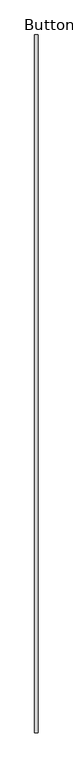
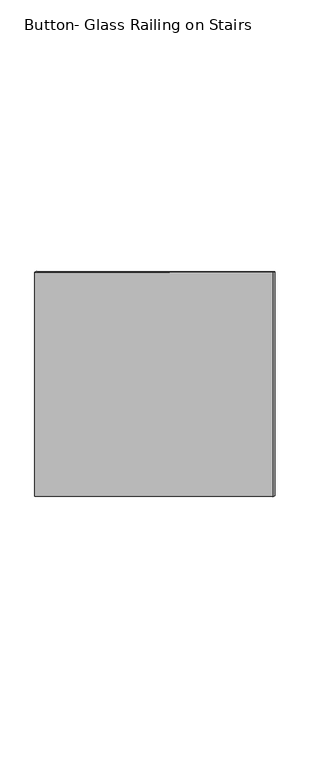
"""IFC4 building model written with IfcOpenShell, lengths in millimetres: railing geometry, Button- Glass Railing on Stairs."""

import ifcopenshell
import ifcopenshell.guid

model = None  # the IFC model being written
_history = None  # IfcOwnerHistory: only IFC2X3 demands one
_inside = {}  # id of a spatial element -> (the spatial element, [elements in it])
_under = {}  # id of a project, library or spatial element -> (it, [spatial elements below it])
_declared = {}  # id of a project -> (the project, [libraries it declares])
_typed = {}  # id of a type object -> (the type object, [elements of that type])
_made_of = {}  # id of a material, layer set ... -> (it, [elements and type objects made of it])


def new_model(schema):
    """Start an empty IFC model of exactly this schema.

    Asked for "IFC4X3", IfcOpenShell would pick the latest addendum, in which some entities
    have other attributes; the version numbers below select the first issue.
    IFC2X3 requires an IfcOwnerHistory on every rooted entity: one is made here for all.
    """
    global model, _history
    if schema == "IFC4X3":
        model = ifcopenshell.file(schema_version=(4, 3, 0, 0))
    else:
        model = ifcopenshell.file(schema=schema)
    _inside.clear()
    _under.clear()
    _declared.clear()
    _typed.clear()
    _made_of.clear()
    _history = None
    if model.schema == "IFC2X3":
        org = make("IfcOrganization", Name="unknown")
        user = make(
            "IfcPersonAndOrganization",
            ThePerson=make("IfcPerson", FamilyName="unknown"),
            TheOrganization=org,
        )
        app = make(
            "IfcApplication",
            ApplicationDeveloper=org,
            Version="unknown",
            ApplicationFullName="unknown",
            ApplicationIdentifier="unknown",
        )
        _history = make(
            "IfcOwnerHistory",
            OwningUser=user,
            OwningApplication=app,
            ChangeAction="ADDED",
            CreationDate=0,
        )
    return model


def make(cls, **values):
    """One entity of the class cls with the attributes given. An attribute that is None is left unset."""
    return model.create_entity(
        cls, **{name: value for name, value in values.items() if value is not None}
    )


def rooted(cls, **values):
    """An entity with a GlobalId (a new one), such as an element, a storey or a relation."""
    return make(cls, GlobalId=ifcopenshell.guid.new(), OwnerHistory=_history, **values)


def si_unit(unit_type, name, prefix=None):
    """IfcSIUnit, for example si_unit("LENGTHUNIT", "METRE", prefix="MILLI")."""
    return make("IfcSIUnit", UnitType=unit_type, Prefix=prefix, Name=name)


def assignment(units):
    """IfcUnitAssignment: the units of a project."""
    return None if units is None else make("IfcUnitAssignment", Units=units)


def point(xyz):
    """IfcCartesianPoint."""
    return None if xyz is None else make("IfcCartesianPoint", Coordinates=xyz)


def direction(xyz):
    """IfcDirection."""
    return None if xyz is None else make("IfcDirection", DirectionRatios=xyz)


def frame(location, z_axis=None, x_axis=None):
    """IfcAxis2Placement3D, a coordinate frame: its origin and axes. An axis left out is left unset."""
    return make(
        "IfcAxis2Placement3D",
        Location=point(location),
        Axis=direction(z_axis),
        RefDirection=direction(x_axis),
    )


def origin():
    """The frame at (0, 0, 0) with its axes left unset."""
    return frame((0.0, 0.0, 0.0))


def place(relative_to, where):
    """IfcLocalPlacement: puts the frame where relative to a parent placement (None: the world)."""
    return make(
        "IfcLocalPlacement", PlacementRelTo=relative_to, RelativePlacement=where
    )


def context(
    kind, dimensions, precision=None, world=None, true_north=None, identifier=None
):
    """IfcGeometricRepresentationContext, for example the 3D "Model" context."""
    return make(
        "IfcGeometricRepresentationContext",
        ContextIdentifier=identifier,
        ContextType=kind,
        CoordinateSpaceDimension=dimensions,
        Precision=precision,
        WorldCoordinateSystem=world,
        TrueNorth=true_north,
    )


def project(units=None, contexts=None):
    """IfcProject with its units and contexts."""
    return rooted(
        "IfcProject",
        Name="project",
        RepresentationContexts=contexts,
        UnitsInContext=assignment(units),
    )


def spatial(cls, under=None, at=None, **own):
    """A site, building, storey or space (cls), placed at a placement, below another one or the project."""
    s = rooted(cls, ObjectPlacement=at, **own)
    if under is not None:
        _under.setdefault(under.id(), (under, []))[1].append(s)
    return s


def polyline(points):
    """IfcPolyline through the points."""
    return make("IfcPolyline", Points=[point(p) for p in points])


def outline(outer, holes=None, kind="AREA"):
    """IfcArbitraryClosedProfileDef: a profile drawn as a closed curve; with holes, ...WithVoids."""
    if holes is None:
        return make("IfcArbitraryClosedProfileDef", ProfileType=kind, OuterCurve=outer)
    return make(
        "IfcArbitraryProfileDefWithVoids",
        ProfileType=kind,
        OuterCurve=outer,
        InnerCurves=holes,
    )


def extrude(swept, where, along, depth):
    """IfcExtrudedAreaSolid: the profile swept, set in the frame where, extruded along a direction by depth."""
    return make(
        "IfcExtrudedAreaSolid",
        SweptArea=swept,
        Position=where,
        ExtrudedDirection=direction(along),
        Depth=depth,
    )


def shape(context_of_items, identifier, shape_type, items):
    """IfcShapeRepresentation: the items that make up one representation, for example the "Body"."""
    return make(
        "IfcShapeRepresentation",
        ContextOfItems=context_of_items,
        RepresentationIdentifier=identifier,
        RepresentationType=shape_type,
        Items=items,
    )


def source(mapping_origin, context_of_items, identifier, shape_type, items):
    """IfcRepresentationMap: a shape defined once, which mapped items show again and again."""
    return make(
        "IfcRepresentationMap",
        MappingOrigin=mapping_origin,
        MappedRepresentation=shape(context_of_items, identifier, shape_type, items),
    )


def transform(
    local_origin,
    x_axis=None,
    y_axis=None,
    z_axis=None,
    scale=None,
    scale2=None,
    scale3=None,
    uniform=True,
):
    """IfcCartesianTransformationOperator3D, or its non-uniform kind. x_axis, y_axis, z_axis: its Axis1, 2, 3."""
    if uniform:
        return make(
            "IfcCartesianTransformationOperator3D",
            Axis1=direction(x_axis),
            Axis2=direction(y_axis),
            LocalOrigin=point(local_origin),
            Scale=scale,
            Axis3=direction(z_axis),
        )
    return make(
        "IfcCartesianTransformationOperator3DnonUniform",
        Axis1=direction(x_axis),
        Axis2=direction(y_axis),
        LocalOrigin=point(local_origin),
        Scale=scale,
        Axis3=direction(z_axis),
        Scale2=scale2,
        Scale3=scale3,
    )


def mapped(mapping_source, mapping_target):
    """IfcMappedItem: shows the shape of a source again, moved by a transform."""
    return make(
        "IfcMappedItem", MappingSource=mapping_source, MappingTarget=mapping_target
    )


def made_of(thing, what):
    """Note that an element or type object is made of a material, layer set ...; save() writes the relation."""
    if what is not None:
        _made_of.setdefault(what.id(), (what, []))[1].append(thing)
    return thing


def element(
    cls,
    number,
    at=None,
    inside=None,
    cuts=None,
    type_object=None,
    material=None,
    context=None,
    identifier="Body",
    shape_type=None,
    held_by="IfcProductDefinitionShape",
    body=None,
    shapes=None,
    **own,
):
    """One element of the class cls, such as IfcWall. Its Tag is "e" and its number.

    at: its placement. inside: the storey or other place that contains it. cuts: it is an
    opening in that element (IfcRelVoidsElement). A single representation is given by context,
    identifier, shape_type and body (its items); several are given by shapes. held_by: the class
    of the entity that holds the representations. save() writes the other relations.
    """
    e = rooted(cls, Tag="e%d" % number, ObjectPlacement=at, **own)
    if body is not None:
        shapes = [shape(context, identifier, shape_type, body)]
    if shapes is not None:
        e.Representation = make(held_by, Representations=shapes)
    if inside is not None:
        _inside.setdefault(inside.id(), (inside, []))[1].append(e)
    if cuts is not None:
        rooted(
            "IfcRelVoidsElement", RelatingBuildingElement=cuts, RelatedOpeningElement=e
        )
    if type_object is not None:
        _typed.setdefault(type_object.id(), (type_object, []))[1].append(e)
    return made_of(e, material)


def aggregate(whole, parts):
    """IfcRelAggregates: a whole, such as a stair, and the parts it consists of."""
    return rooted("IfcRelAggregates", RelatingObject=whole, RelatedObjects=parts)


def save(model, path):
    """Write the relations noted so far, then the file.

    IfcRelAggregates (storeys below a building ...), IfcRelContainedInSpatialStructure (elements
    in a storey), IfcRelDefinesByType, IfcRelAssociatesMaterial and IfcRelDeclares: one each for
    every whole, place, type object, material and project.
    """
    for whole, parts in _under.values():
        aggregate(whole, parts)
    for where, things in _inside.values():
        rooted(
            "IfcRelContainedInSpatialStructure",
            RelatedElements=things,
            RelatingStructure=where,
        )
    for kind, things in _typed.values():
        rooted("IfcRelDefinesByType", RelatedObjects=things, RelatingType=kind)
    for what, things in _made_of.values():
        rooted("IfcRelAssociatesMaterial", RelatedObjects=things, RelatingMaterial=what)
    for by, libraries in _declared.values():
        rooted("IfcRelDeclares", RelatingContext=by, RelatedDefinitions=libraries)
    model.write(path)


def button_glass_railing_on_stairs_e502715b(model_context):
    return source(origin(), model_context, "Body", "SweptSolid", [
        extrude(outline(polyline([(2194.3994253, 2687.0145889), (2194.3994253, 4127.5), (4702.6494253, 2607.3484848), (4702.6494253, 1166.8630737), (2194.3994253, 2687.0145889)])), frame((3129.7076518, 0.0, 0.0), z_axis=(1.0, 0.0, 0.0), x_axis=(0.0, 1.0, 0.0)), (0.0, 0.0, 1.0), 12.7),
    ])


if __name__ == "__main__":
    model = new_model("IFC4")
    model_context = context("Model", 3, world=origin())
    ifc_project = project(units=[si_unit("LENGTHUNIT", "METRE", prefix="MILLI")], contexts=[model_context])
    site = spatial("IfcSite", under=ifc_project)
    building = spatial("IfcBuilding", under=site)
    placement = place(None, origin())
    button_glass_railing_on_stairs_shape = button_glass_railing_on_stairs_e502715b(model_context)
    element("IfcRailing", 1, ObjectType="Button- Glass Railing on Stairs", at=placement, inside=building, context=model_context, shape_type="MappedRepresentation", body=[
        mapped(button_glass_railing_on_stairs_shape, transform((0.0, 0.0, 0.0), x_axis=(1.0, 0.0, 0.0), y_axis=(0.0, 1.0, 0.0), z_axis=(0.0, 0.0, 1.0))),
    ])
    save(model, "model.ifc")
